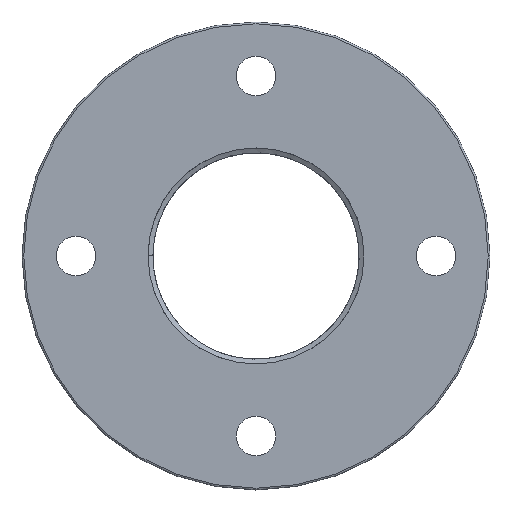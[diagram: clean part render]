
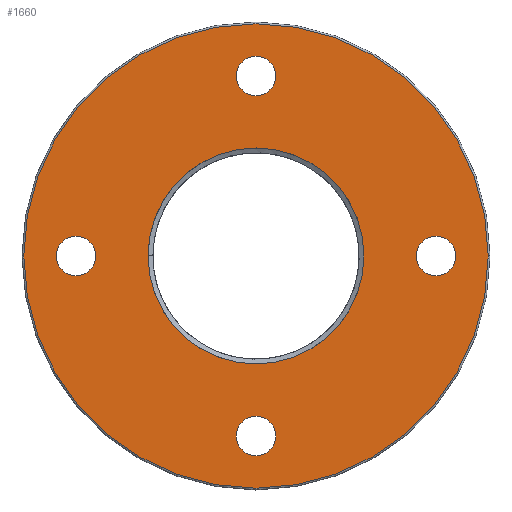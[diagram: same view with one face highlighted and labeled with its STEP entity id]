
A CAD part, top view. The second image highlights one B-rep face of the part: STEP entity #1660.
In plain terms, the highlighted planar face has unit normal (0, 0, 1).
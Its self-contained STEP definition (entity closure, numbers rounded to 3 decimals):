
#15 = CARTESIAN_POINT ( 'NONE',  ( 0., 0., -14. ) ) ;
#17 = CIRCLE ( 'NONE', #481, 1.1 ) ;
#24 = DIRECTION ( 'NONE',  ( -1., 0., 0. ) ) ;
#36 = EDGE_CURVE ( 'NONE', #1091, #1825, #1003, .T. ) ;
#44 = DIRECTION ( 'NONE',  ( 0., 0., -1. ) ) ;
#66 = CARTESIAN_POINT ( 'NONE',  ( 8.9, 0., -14. ) ) ;
#90 = CIRCLE ( 'NONE', #1241, 1.1 ) ;
#95 = ORIENTED_EDGE ( 'NONE', *, *, #244, .T. ) ;
#115 = EDGE_LOOP ( 'NONE', ( #1626, #541 ) ) ;
#125 = CARTESIAN_POINT ( 'NONE',  ( -1.1, -10., -14. ) ) ;
#153 = CARTESIAN_POINT ( 'NONE',  ( 0., 10., -14. ) ) ;
#168 = ORIENTED_EDGE ( 'NONE', *, *, #756, .T. ) ;
#172 = CIRCLE ( 'NONE', #1716, 1.1 ) ;
#213 = CARTESIAN_POINT ( 'NONE',  ( -11.1, 0., -14. ) ) ;
#235 = CARTESIAN_POINT ( 'NONE',  ( 0., 0., -14. ) ) ;
#236 = CARTESIAN_POINT ( 'NONE',  ( 12.9, 0., -14. ) ) ;
#238 = EDGE_CURVE ( 'NONE', #1808, #265, #1857, .T. ) ;
#239 = CIRCLE ( 'NONE', #310, 1.1 ) ;
#244 = EDGE_CURVE ( 'NONE', #1825, #1091, #90, .T. ) ;
#261 = DIRECTION ( 'NONE',  ( -1., 0., 0. ) ) ;
#265 = VERTEX_POINT ( 'NONE', #951 ) ;
#273 = ORIENTED_EDGE ( 'NONE', *, *, #305, .T. ) ;
#277 = EDGE_LOOP ( 'NONE', ( #1583, #1744 ) ) ;
#302 = FACE_OUTER_BOUND ( 'NONE', #440, .T. ) ;
#305 = EDGE_CURVE ( 'NONE', #265, #1808, #1585, .T. ) ;
#310 = AXIS2_PLACEMENT_3D ( 'NONE', #1883, #1733, #485 ) ;
#316 = VERTEX_POINT ( 'NONE', #213 ) ;
#318 = DIRECTION ( 'NONE',  ( -1., 0., 0. ) ) ;
#323 = DIRECTION ( 'NONE',  ( 1., 0., 0. ) ) ;
#340 = CARTESIAN_POINT ( 'NONE',  ( 0., 0., -14. ) ) ;
#344 = CIRCLE ( 'NONE', #374, 1.1 ) ;
#346 = DIRECTION ( 'NONE',  ( -1., 0., 0. ) ) ;
#374 = AXIS2_PLACEMENT_3D ( 'NONE', #496, #928, #318 ) ;
#384 = DIRECTION ( 'NONE',  ( -1., 0., 0. ) ) ;
#418 = CARTESIAN_POINT ( 'NONE',  ( 0., -10., -14. ) ) ;
#425 = CARTESIAN_POINT ( 'NONE',  ( -1.1, 10., -14. ) ) ;
#440 = EDGE_LOOP ( 'NONE', ( #273, #725 ) ) ;
#453 = EDGE_LOOP ( 'NONE', ( #168, #1062 ) ) ;
#481 = AXIS2_PLACEMENT_3D ( 'NONE', #845, #979, #384 ) ;
#485 = DIRECTION ( 'NONE',  ( -1., 0., 0. ) ) ;
#496 = CARTESIAN_POINT ( 'NONE',  ( 10., 0., -14. ) ) ;
#541 = ORIENTED_EDGE ( 'NONE', *, *, #819, .F. ) ;
#569 = VERTEX_POINT ( 'NONE', #1710 ) ;
#573 = AXIS2_PLACEMENT_3D ( 'NONE', #1805, #723, #1948 ) ;
#581 = CIRCLE ( 'NONE', #775, 1.1 ) ;
#612 = AXIS2_PLACEMENT_3D ( 'NONE', #15, #1395, #346 ) ;
#614 = FACE_BOUND ( 'NONE', #115, .T. ) ;
#619 = EDGE_LOOP ( 'NONE', ( #1540, #95 ) ) ;
#684 = CARTESIAN_POINT ( 'NONE',  ( 1.1, 10., -14. ) ) ;
#721 = EDGE_CURVE ( 'NONE', #1378, #929, #994, .T. ) ;
#723 = DIRECTION ( 'NONE',  ( 0., 0., 1. ) ) ;
#725 = ORIENTED_EDGE ( 'NONE', *, *, #238, .T. ) ;
#737 = CIRCLE ( 'NONE', #1847, 1.1 ) ;
#756 = EDGE_CURVE ( 'NONE', #1498, #1676, #172, .T. ) ;
#761 = DIRECTION ( 'NONE',  ( -1., 0., 0. ) ) ;
#775 = AXIS2_PLACEMENT_3D ( 'NONE', #1890, #785, #1899 ) ;
#785 = DIRECTION ( 'NONE',  ( 0., 0., -1. ) ) ;
#793 = PLANE ( 'NONE',  #612 ) ;
#819 = EDGE_CURVE ( 'NONE', #929, #1378, #1384, .T. ) ;
#838 = CARTESIAN_POINT ( 'NONE',  ( -6., 0., -14. ) ) ;
#845 = CARTESIAN_POINT ( 'NONE',  ( -10., 0., -14. ) ) ;
#922 = CARTESIAN_POINT ( 'NONE',  ( 1.1, -10., -14. ) ) ;
#928 = DIRECTION ( 'NONE',  ( 0., 0., -1. ) ) ;
#929 = VERTEX_POINT ( 'NONE', #1792 ) ;
#951 = CARTESIAN_POINT ( 'NONE',  ( -12.9, 0., -14. ) ) ;
#968 = FACE_BOUND ( 'NONE', #1701, .T. ) ;
#977 = AXIS2_PLACEMENT_3D ( 'NONE', #1594, #1445, #1465 ) ;
#979 = DIRECTION ( 'NONE',  ( 0., 0., -1. ) ) ;
#994 = CIRCLE ( 'NONE', #573, 6. ) ;
#998 = VERTEX_POINT ( 'NONE', #1822 ) ;
#1003 = CIRCLE ( 'NONE', #1566, 1.1 ) ;
#1056 = DIRECTION ( 'NONE',  ( 0., 0., 1. ) ) ;
#1062 = ORIENTED_EDGE ( 'NONE', *, *, #1119, .T. ) ;
#1091 = VERTEX_POINT ( 'NONE', #425 ) ;
#1119 = EDGE_CURVE ( 'NONE', #1676, #1498, #239, .T. ) ;
#1142 = EDGE_CURVE ( 'NONE', #569, #1791, #344, .T. ) ;
#1241 = AXIS2_PLACEMENT_3D ( 'NONE', #1747, #44, #24 ) ;
#1263 = ORIENTED_EDGE ( 'NONE', *, *, #1821, .T. ) ;
#1272 = ORIENTED_EDGE ( 'NONE', *, *, #1446, .T. ) ;
#1305 = DIRECTION ( 'NONE',  ( -1., 0., 0. ) ) ;
#1321 = AXIS2_PLACEMENT_3D ( 'NONE', #235, #1056, #323 ) ;
#1359 = CARTESIAN_POINT ( 'NONE',  ( -10., 0., -14. ) ) ;
#1364 = DIRECTION ( 'NONE',  ( 0., 0., -1. ) ) ;
#1378 = VERTEX_POINT ( 'NONE', #838 ) ;
#1384 = CIRCLE ( 'NONE', #1321, 6. ) ;
#1395 = DIRECTION ( 'NONE',  ( 0., 0., -1. ) ) ;
#1406 = FACE_BOUND ( 'NONE', #619, .T. ) ;
#1445 = DIRECTION ( 'NONE',  ( 0., 0., 1. ) ) ;
#1446 = EDGE_CURVE ( 'NONE', #998, #316, #737, .T. ) ;
#1456 = DIRECTION ( 'NONE',  ( 0., 0., 1. ) ) ;
#1465 = DIRECTION ( 'NONE',  ( -1., 0., 0. ) ) ;
#1498 = VERTEX_POINT ( 'NONE', #125 ) ;
#1516 = AXIS2_PLACEMENT_3D ( 'NONE', #340, #1456, #1305 ) ;
#1540 = ORIENTED_EDGE ( 'NONE', *, *, #36, .T. ) ;
#1566 = AXIS2_PLACEMENT_3D ( 'NONE', #153, #2018, #761 ) ;
#1583 = ORIENTED_EDGE ( 'NONE', *, *, #1597, .T. ) ;
#1585 = CIRCLE ( 'NONE', #1516, 12.9 ) ;
#1594 = CARTESIAN_POINT ( 'NONE',  ( 0., 0., -14. ) ) ;
#1597 = EDGE_CURVE ( 'NONE', #1791, #569, #581, .T. ) ;
#1626 = ORIENTED_EDGE ( 'NONE', *, *, #721, .F. ) ;
#1660 = ADVANCED_FACE ( 'NONE', ( #1406, #968, #2009, #1752, #302, #614 ), #793, .F. ) ;
#1676 = VERTEX_POINT ( 'NONE', #922 ) ;
#1701 = EDGE_LOOP ( 'NONE', ( #1263, #1272 ) ) ;
#1710 = CARTESIAN_POINT ( 'NONE',  ( 11.1, 0., -14. ) ) ;
#1716 = AXIS2_PLACEMENT_3D ( 'NONE', #418, #1364, #261 ) ;
#1733 = DIRECTION ( 'NONE',  ( 0., 0., -1. ) ) ;
#1744 = ORIENTED_EDGE ( 'NONE', *, *, #1142, .T. ) ;
#1747 = CARTESIAN_POINT ( 'NONE',  ( 0., 10., -14. ) ) ;
#1752 = FACE_BOUND ( 'NONE', #277, .T. ) ;
#1791 = VERTEX_POINT ( 'NONE', #66 ) ;
#1792 = CARTESIAN_POINT ( 'NONE',  ( 6., 0., -14. ) ) ;
#1805 = CARTESIAN_POINT ( 'NONE',  ( 0., 0., -14. ) ) ;
#1808 = VERTEX_POINT ( 'NONE', #236 ) ;
#1821 = EDGE_CURVE ( 'NONE', #316, #998, #17, .T. ) ;
#1822 = CARTESIAN_POINT ( 'NONE',  ( -8.9, 0., -14. ) ) ;
#1825 = VERTEX_POINT ( 'NONE', #684 ) ;
#1828 = DIRECTION ( 'NONE',  ( -1., 0., 0. ) ) ;
#1847 = AXIS2_PLACEMENT_3D ( 'NONE', #1359, #1972, #1828 ) ;
#1857 = CIRCLE ( 'NONE', #977, 12.9 ) ;
#1883 = CARTESIAN_POINT ( 'NONE',  ( 0., -10., -14. ) ) ;
#1890 = CARTESIAN_POINT ( 'NONE',  ( 10., 0., -14. ) ) ;
#1899 = DIRECTION ( 'NONE',  ( -1., 0., 0. ) ) ;
#1948 = DIRECTION ( 'NONE',  ( 1., 0., 0. ) ) ;
#1972 = DIRECTION ( 'NONE',  ( 0., 0., -1. ) ) ;
#2009 = FACE_BOUND ( 'NONE', #453, .T. ) ;
#2018 = DIRECTION ( 'NONE',  ( 0., 0., -1. ) ) ;
